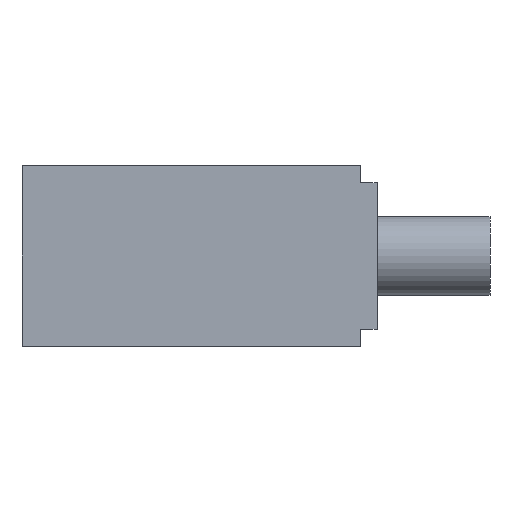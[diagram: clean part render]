
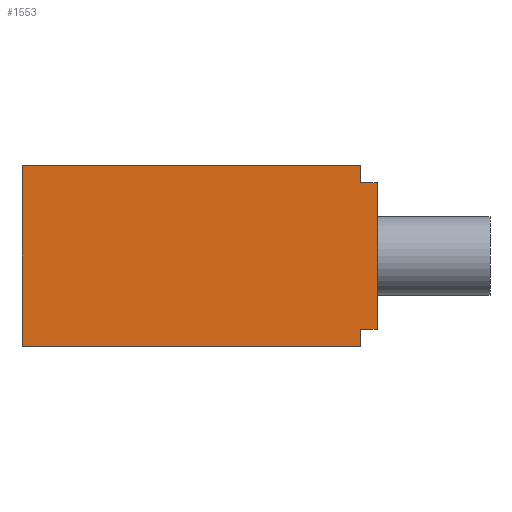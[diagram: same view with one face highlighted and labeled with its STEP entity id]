
A CAD part, front view. The second image highlights one B-rep face of the part: STEP entity #1553.
In plain terms, the highlighted planar face has unit normal (0, -1, 0) as drawn and (0, 0, -1) by its records, which use the part's own axes.
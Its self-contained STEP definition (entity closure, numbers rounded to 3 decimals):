
#53=LINE('',#2445,#155);
#57=LINE('',#2456,#159);
#65=LINE('',#2471,#167);
#97=LINE('',#2574,#199);
#113=LINE('',#2619,#215);
#129=LINE('',#2652,#231);
#132=LINE('',#2657,#234);
#133=LINE('',#2659,#235);
#155=VECTOR('',#1991,13.);
#159=VECTOR('',#1999,1.5);
#167=VECTOR('',#2007,1.5);
#199=VECTOR('',#2111,30.);
#215=VECTOR('',#2155,16.);
#231=VECTOR('',#2193,30.);
#234=VECTOR('',#2200,1.5);
#235=VECTOR('',#2203,1.5);
#283=PLANE('',#1737);
#485=FACE_OUTER_BOUND('',#617,.T.);
#617=EDGE_LOOP('',(#1416,#1417,#1418,#1419,#1420,#1421,#1422,#1423));
#774=VERTEX_POINT('',#2442);
#775=VERTEX_POINT('',#2444);
#777=VERTEX_POINT('',#2449);
#779=VERTEX_POINT('',#2453);
#780=VERTEX_POINT('',#2455);
#787=VERTEX_POINT('',#2469);
#822=VERTEX_POINT('',#2572);
#837=VERTEX_POINT('',#2617);
#933=EDGE_CURVE('',#775,#774,#53,.T.);
#938=EDGE_CURVE('',#780,#779,#57,.T.);
#946=EDGE_CURVE('',#777,#787,#65,.T.);
#995=EDGE_CURVE('',#787,#822,#97,.T.);
#1017=EDGE_CURVE('',#837,#822,#113,.T.);
#1034=EDGE_CURVE('',#837,#780,#129,.T.);
#1037=EDGE_CURVE('',#779,#775,#132,.T.);
#1038=EDGE_CURVE('',#777,#774,#133,.T.);
#1416=ORIENTED_EDGE('',*,*,#933,.T.);
#1417=ORIENTED_EDGE('',*,*,#1038,.F.);
#1418=ORIENTED_EDGE('',*,*,#946,.T.);
#1419=ORIENTED_EDGE('',*,*,#995,.T.);
#1420=ORIENTED_EDGE('',*,*,#1017,.F.);
#1421=ORIENTED_EDGE('',*,*,#1034,.T.);
#1422=ORIENTED_EDGE('',*,*,#938,.T.);
#1423=ORIENTED_EDGE('',*,*,#1037,.T.);
#1553=ADVANCED_FACE('',(#485),#283,.T.);
#1737=AXIS2_PLACEMENT_3D('',#2658,#2201,#2202);
#1991=DIRECTION('',(0.,-1.,0.));
#1999=DIRECTION('',(0.,-1.,0.));
#2007=DIRECTION('',(0.,-1.,0.));
#2111=DIRECTION('',(-1.,0.,0.));
#2155=DIRECTION('',(0.,-1.,0.));
#2193=DIRECTION('',(1.,0.,0.));
#2200=DIRECTION('',(1.,0.,0.));
#2201=DIRECTION('center_axis',(0.,0.,-1.));
#2202=DIRECTION('ref_axis',(-1.,0.,0.));
#2203=DIRECTION('',(1.,0.,0.));
#2442=CARTESIAN_POINT('',(16.5,-14.5,-40.));
#2444=CARTESIAN_POINT('',(16.5,-1.5,-40.));
#2445=CARTESIAN_POINT('',(16.5,-1.5,-40.));
#2449=CARTESIAN_POINT('',(15.,-14.5,-40.));
#2453=CARTESIAN_POINT('',(15.,-1.5,-40.));
#2455=CARTESIAN_POINT('',(15.,0.,-40.));
#2456=CARTESIAN_POINT('',(15.,0.,-40.));
#2469=CARTESIAN_POINT('',(15.,-16.,-40.));
#2471=CARTESIAN_POINT('',(15.,-14.5,-40.));
#2572=CARTESIAN_POINT('',(-15.,-16.,-40.));
#2574=CARTESIAN_POINT('',(15.,-16.,-40.));
#2617=CARTESIAN_POINT('',(-15.,0.,-40.));
#2619=CARTESIAN_POINT('',(-15.,0.,-40.));
#2652=CARTESIAN_POINT('',(-15.,0.,-40.));
#2657=CARTESIAN_POINT('',(15.,-1.5,-40.));
#2658=CARTESIAN_POINT('Origin',(15.,-1.5,-40.));
#2659=CARTESIAN_POINT('',(15.,-14.5,-40.));
